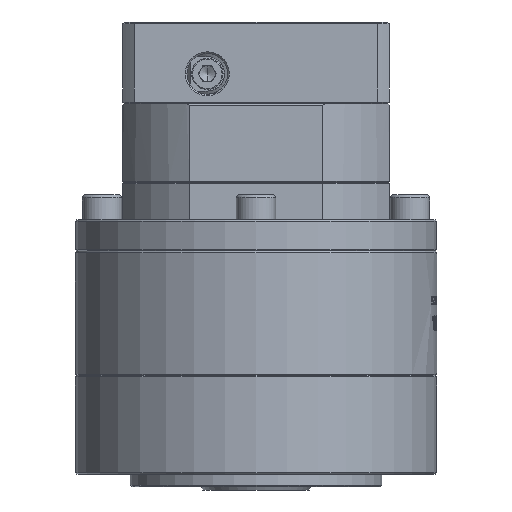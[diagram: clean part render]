
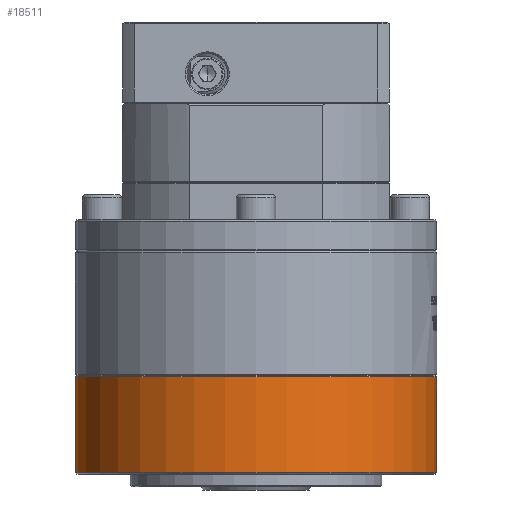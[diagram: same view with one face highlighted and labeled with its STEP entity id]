
A CAD part, left-side view. The second image highlights one B-rep face of the part: STEP entity #18511.
In plain terms, the highlighted cylindrical face has radius 57.5 mm (diameter 115 mm), a partial arc.
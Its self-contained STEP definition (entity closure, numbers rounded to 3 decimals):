
#2736 = ORIENTED_EDGE ( 'NONE', *, *, #34856, .F. ) ;
#6496 = CIRCLE ( 'NONE', #36415, 57.5 ) ;
#8292 = DIRECTION ( 'NONE',  ( 0., 0., 1. ) ) ;
#12323 = ORIENTED_EDGE ( 'NONE', *, *, #32371, .T. ) ;
#13530 = VECTOR ( 'NONE', #8292, 1000. ) ;
#14358 = CARTESIAN_POINT ( 'NONE',  ( 90.36, -104.437, -63.696 ) ) ;
#15948 = CARTESIAN_POINT ( 'NONE',  ( 90.36, -104.437, -81.696 ) ) ;
#18511 = ADVANCED_FACE ( 'NONE', ( #53955 ), #48145, .T. ) ;
#19047 = CARTESIAN_POINT ( 'NONE',  ( 90.36, -46.937, -63.696 ) ) ;
#21329 = CARTESIAN_POINT ( 'NONE',  ( 90.36, -46.937, -81.696 ) ) ;
#23278 = LINE ( 'NONE', #15948, #72362 ) ;
#32371 = EDGE_CURVE ( 'NONE', #76658, #58465, #23278, .T. ) ;
#34856 = EDGE_CURVE ( 'NONE', #91953, #97133, #85742, .T. ) ;
#36415 = AXIS2_PLACEMENT_3D ( 'NONE', #38157, #78634, #56789 ) ;
#38157 = CARTESIAN_POINT ( 'NONE',  ( 90.36, -46.937, -94.196 ) ) ;
#43016 = ORIENTED_EDGE ( 'NONE', *, *, #100228, .T. ) ;
#48145 = CYLINDRICAL_SURFACE ( 'NONE', #116943, 57.5 ) ;
#52534 = CIRCLE ( 'NONE', #93898, 57.5 ) ;
#53955 = FACE_OUTER_BOUND ( 'NONE', #117800, .T. ) ;
#54252 = CARTESIAN_POINT ( 'NONE',  ( 90.36, 10.563, -81.696 ) ) ;
#55342 = DIRECTION ( 'NONE',  ( 0., 0., 1. ) ) ;
#56789 = DIRECTION ( 'NONE',  ( 0., -1., 0. ) ) ;
#58465 = VERTEX_POINT ( 'NONE', #14358 ) ;
#63411 = DIRECTION ( 'NONE',  ( 0., 1., 0. ) ) ;
#65566 = CARTESIAN_POINT ( 'NONE',  ( 90.36, 10.563, -63.696 ) ) ;
#66555 = DIRECTION ( 'NONE',  ( 0., -1., 0. ) ) ;
#67356 = CARTESIAN_POINT ( 'NONE',  ( 90.36, -104.437, -94.196 ) ) ;
#72362 = VECTOR ( 'NONE', #98867, 1000. ) ;
#76658 = VERTEX_POINT ( 'NONE', #67356 ) ;
#78634 = DIRECTION ( 'NONE',  ( 0., 0., 1. ) ) ;
#85742 = LINE ( 'NONE', #54252, #13530 ) ;
#86009 = DIRECTION ( 'NONE',  ( 0., 0., 1. ) ) ;
#91953 = VERTEX_POINT ( 'NONE', #112039 ) ;
#93898 = AXIS2_PLACEMENT_3D ( 'NONE', #19047, #55342, #63411 ) ;
#97133 = VERTEX_POINT ( 'NONE', #65566 ) ;
#98867 = DIRECTION ( 'NONE',  ( 0., 0., 1. ) ) ;
#100228 = EDGE_CURVE ( 'NONE', #91953, #76658, #6496, .T. ) ;
#107321 = EDGE_CURVE ( 'NONE', #97133, #58465, #52534, .T. ) ;
#112039 = CARTESIAN_POINT ( 'NONE',  ( 90.36, 10.563, -94.196 ) ) ;
#114445 = ORIENTED_EDGE ( 'NONE', *, *, #107321, .F. ) ;
#116943 = AXIS2_PLACEMENT_3D ( 'NONE', #21329, #86009, #66555 ) ;
#117800 = EDGE_LOOP ( 'NONE', ( #2736, #43016, #12323, #114445 ) ) ;
